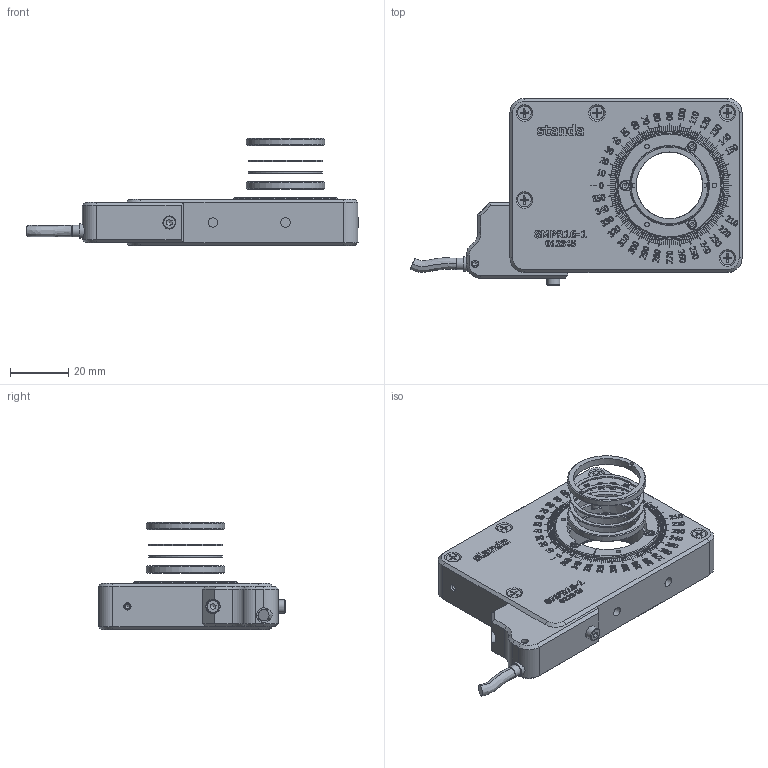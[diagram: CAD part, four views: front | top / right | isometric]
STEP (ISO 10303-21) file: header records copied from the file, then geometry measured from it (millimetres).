
FILE_DESCRIPTION(/* description */ (''),/* implementation_level */ '2;1');
FILE_NAME(/* name */ 'U:\KONSTRUKTORIAI\DOKUMENTACIJA\8\8MPR16-1\STEP\8MPR16-1-MEn1-002 SB.stp',/* time_stamp */ '2022-11-24T08:52:31+02:00',/* author */ ('dsgn32'),/* organization */ (''),/* preprocessor_version */ 'ST-DEVELOPER v15.2',/* originating_system */ 'Autodesk Inventor 2014',/* authorisation */ '');
FILE_SCHEMA (('CONFIG_CONTROL_DESIGN'));
Products named in the file (1): 8MPR16-1-MEn1-002 SB
Bounding box: 114.43 x 64.5 x 37.01 mm (x, y, z)
Volume: 69117.2 mm3; surface area: 23206.5 mm2
Topology: 5 solids, 27 shells, 3089 faces, 8489 edges, 5647 vertices
Faces by surface type: plane 1685, bspline 1090, cone 139, cylinder 120, torus 55
Full cylindrical faces by diameter (mm): 1.221 x5, 1.567 x3, 1.6 x3, 1.8 x3, 2.013 x7, 2.224 x9, 2.459 x3, 2.5 x6, 2.9 x7, 3 x3, 3.242 x6, 4 x2, 4.5 x2, 4.7 x9, 5 x3, 23 x4, 25.5 x2, 25.917 x1, 27 x2, 27.5 x1, 30.6 x1, 33.4 x3, 35 x2, 36 x1, 37 x1
Entity records: 108816 total; most frequent: CARTESIAN_POINT 35744, ORIENTED_EDGE 16458, DIRECTION 10631, EDGE_CURVE 8227, VERTEX_POINT 5545, LINE 4995, VECTOR 4995, EDGE_LOOP 3486
